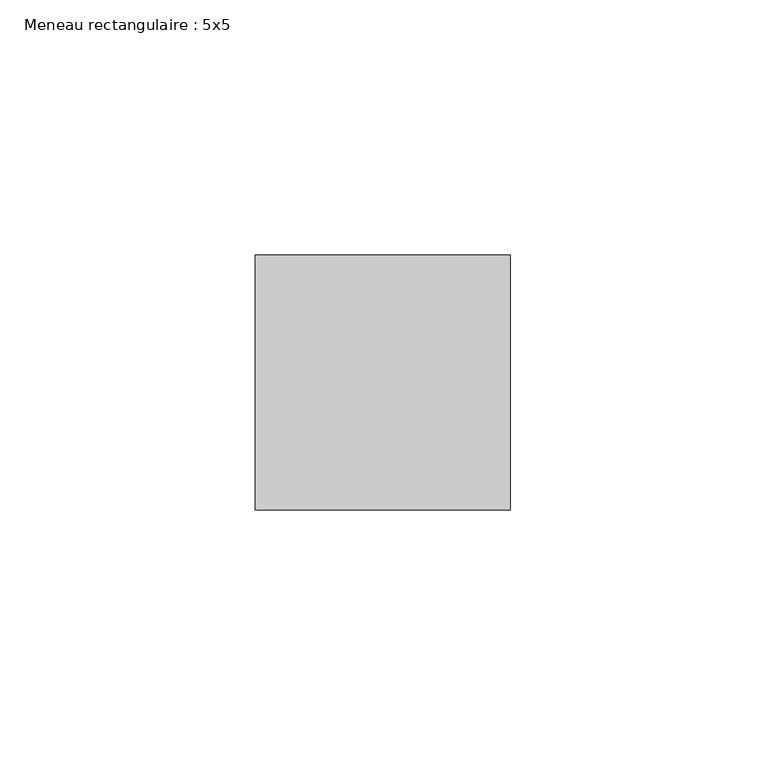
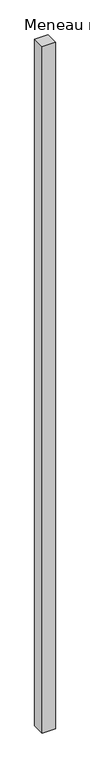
"""IFC4 building model written with IfcOpenShell, lengths in millimetres: member geometry, Meneau rectangulaire : 5x5."""

import ifcopenshell
import ifcopenshell.guid

model = None  # the IFC model being written
_history = None  # IfcOwnerHistory: only IFC2X3 demands one
_inside = {}  # id of a spatial element -> (the spatial element, [elements in it])
_under = {}  # id of a project, library or spatial element -> (it, [spatial elements below it])
_declared = {}  # id of a project -> (the project, [libraries it declares])
_typed = {}  # id of a type object -> (the type object, [elements of that type])
_made_of = {}  # id of a material, layer set ... -> (it, [elements and type objects made of it])


def new_model(schema):
    """Start an empty IFC model of exactly this schema.

    Asked for "IFC4X3", IfcOpenShell would pick the latest addendum, in which some entities
    have other attributes; the version numbers below select the first issue.
    IFC2X3 requires an IfcOwnerHistory on every rooted entity: one is made here for all.
    """
    global model, _history
    if schema == "IFC4X3":
        model = ifcopenshell.file(schema_version=(4, 3, 0, 0))
    else:
        model = ifcopenshell.file(schema=schema)
    _inside.clear()
    _under.clear()
    _declared.clear()
    _typed.clear()
    _made_of.clear()
    _history = None
    if model.schema == "IFC2X3":
        org = make("IfcOrganization", Name="unknown")
        user = make(
            "IfcPersonAndOrganization",
            ThePerson=make("IfcPerson", FamilyName="unknown"),
            TheOrganization=org,
        )
        app = make(
            "IfcApplication",
            ApplicationDeveloper=org,
            Version="unknown",
            ApplicationFullName="unknown",
            ApplicationIdentifier="unknown",
        )
        _history = make(
            "IfcOwnerHistory",
            OwningUser=user,
            OwningApplication=app,
            ChangeAction="ADDED",
            CreationDate=0,
        )
    return model


def make(cls, **values):
    """One entity of the class cls with the attributes given. An attribute that is None is left unset."""
    return model.create_entity(
        cls, **{name: value for name, value in values.items() if value is not None}
    )


def rooted(cls, **values):
    """An entity with a GlobalId (a new one), such as an element, a storey or a relation."""
    return make(cls, GlobalId=ifcopenshell.guid.new(), OwnerHistory=_history, **values)


def si_unit(unit_type, name, prefix=None):
    """IfcSIUnit, for example si_unit("LENGTHUNIT", "METRE", prefix="MILLI")."""
    return make("IfcSIUnit", UnitType=unit_type, Prefix=prefix, Name=name)


def assignment(units):
    """IfcUnitAssignment: the units of a project."""
    return None if units is None else make("IfcUnitAssignment", Units=units)


def point(xyz):
    """IfcCartesianPoint."""
    return None if xyz is None else make("IfcCartesianPoint", Coordinates=xyz)


def direction(xyz):
    """IfcDirection."""
    return None if xyz is None else make("IfcDirection", DirectionRatios=xyz)


def frame(location, z_axis=None, x_axis=None):
    """IfcAxis2Placement3D, a coordinate frame: its origin and axes. An axis left out is left unset."""
    return make(
        "IfcAxis2Placement3D",
        Location=point(location),
        Axis=direction(z_axis),
        RefDirection=direction(x_axis),
    )


def origin():
    """The frame at (0, 0, 0) with its axes left unset."""
    return frame((0.0, 0.0, 0.0))


def place(relative_to, where):
    """IfcLocalPlacement: puts the frame where relative to a parent placement (None: the world)."""
    return make(
        "IfcLocalPlacement", PlacementRelTo=relative_to, RelativePlacement=where
    )


def context(
    kind, dimensions, precision=None, world=None, true_north=None, identifier=None
):
    """IfcGeometricRepresentationContext, for example the 3D "Model" context."""
    return make(
        "IfcGeometricRepresentationContext",
        ContextIdentifier=identifier,
        ContextType=kind,
        CoordinateSpaceDimension=dimensions,
        Precision=precision,
        WorldCoordinateSystem=world,
        TrueNorth=true_north,
    )


def project(units=None, contexts=None):
    """IfcProject with its units and contexts."""
    return rooted(
        "IfcProject",
        Name="project",
        RepresentationContexts=contexts,
        UnitsInContext=assignment(units),
    )


def spatial(cls, under=None, at=None, **own):
    """A site, building, storey or space (cls), placed at a placement, below another one or the project."""
    s = rooted(cls, ObjectPlacement=at, **own)
    if under is not None:
        _under.setdefault(under.id(), (under, []))[1].append(s)
    return s


def polyline(points):
    """IfcPolyline through the points."""
    return make("IfcPolyline", Points=[point(p) for p in points])


def outline(outer, holes=None, kind="AREA"):
    """IfcArbitraryClosedProfileDef: a profile drawn as a closed curve; with holes, ...WithVoids."""
    if holes is None:
        return make("IfcArbitraryClosedProfileDef", ProfileType=kind, OuterCurve=outer)
    return make(
        "IfcArbitraryProfileDefWithVoids",
        ProfileType=kind,
        OuterCurve=outer,
        InnerCurves=holes,
    )


def extrude(swept, where, along, depth):
    """IfcExtrudedAreaSolid: the profile swept, set in the frame where, extruded along a direction by depth."""
    return make(
        "IfcExtrudedAreaSolid",
        SweptArea=swept,
        Position=where,
        ExtrudedDirection=direction(along),
        Depth=depth,
    )


def shape(context_of_items, identifier, shape_type, items):
    """IfcShapeRepresentation: the items that make up one representation, for example the "Body"."""
    return make(
        "IfcShapeRepresentation",
        ContextOfItems=context_of_items,
        RepresentationIdentifier=identifier,
        RepresentationType=shape_type,
        Items=items,
    )


def source(mapping_origin, context_of_items, identifier, shape_type, items):
    """IfcRepresentationMap: a shape defined once, which mapped items show again and again."""
    return make(
        "IfcRepresentationMap",
        MappingOrigin=mapping_origin,
        MappedRepresentation=shape(context_of_items, identifier, shape_type, items),
    )


def transform(
    local_origin,
    x_axis=None,
    y_axis=None,
    z_axis=None,
    scale=None,
    scale2=None,
    scale3=None,
    uniform=True,
):
    """IfcCartesianTransformationOperator3D, or its non-uniform kind. x_axis, y_axis, z_axis: its Axis1, 2, 3."""
    if uniform:
        return make(
            "IfcCartesianTransformationOperator3D",
            Axis1=direction(x_axis),
            Axis2=direction(y_axis),
            LocalOrigin=point(local_origin),
            Scale=scale,
            Axis3=direction(z_axis),
        )
    return make(
        "IfcCartesianTransformationOperator3DnonUniform",
        Axis1=direction(x_axis),
        Axis2=direction(y_axis),
        LocalOrigin=point(local_origin),
        Scale=scale,
        Axis3=direction(z_axis),
        Scale2=scale2,
        Scale3=scale3,
    )


def mapped(mapping_source, mapping_target):
    """IfcMappedItem: shows the shape of a source again, moved by a transform."""
    return make(
        "IfcMappedItem", MappingSource=mapping_source, MappingTarget=mapping_target
    )


def made_of(thing, what):
    """Note that an element or type object is made of a material, layer set ...; save() writes the relation."""
    if what is not None:
        _made_of.setdefault(what.id(), (what, []))[1].append(thing)
    return thing


def element(
    cls,
    number,
    at=None,
    inside=None,
    cuts=None,
    type_object=None,
    material=None,
    context=None,
    identifier="Body",
    shape_type=None,
    held_by="IfcProductDefinitionShape",
    body=None,
    shapes=None,
    **own,
):
    """One element of the class cls, such as IfcWall. Its Tag is "e" and its number.

    at: its placement. inside: the storey or other place that contains it. cuts: it is an
    opening in that element (IfcRelVoidsElement). A single representation is given by context,
    identifier, shape_type and body (its items); several are given by shapes. held_by: the class
    of the entity that holds the representations. save() writes the other relations.
    """
    e = rooted(cls, Tag="e%d" % number, ObjectPlacement=at, **own)
    if body is not None:
        shapes = [shape(context, identifier, shape_type, body)]
    if shapes is not None:
        e.Representation = make(held_by, Representations=shapes)
    if inside is not None:
        _inside.setdefault(inside.id(), (inside, []))[1].append(e)
    if cuts is not None:
        rooted(
            "IfcRelVoidsElement", RelatingBuildingElement=cuts, RelatedOpeningElement=e
        )
    if type_object is not None:
        _typed.setdefault(type_object.id(), (type_object, []))[1].append(e)
    return made_of(e, material)


def aggregate(whole, parts):
    """IfcRelAggregates: a whole, such as a stair, and the parts it consists of."""
    return rooted("IfcRelAggregates", RelatingObject=whole, RelatedObjects=parts)


def save(model, path):
    """Write the relations noted so far, then the file.

    IfcRelAggregates (storeys below a building ...), IfcRelContainedInSpatialStructure (elements
    in a storey), IfcRelDefinesByType, IfcRelAssociatesMaterial and IfcRelDeclares: one each for
    every whole, place, type object, material and project.
    """
    for whole, parts in _under.values():
        aggregate(whole, parts)
    for where, things in _inside.values():
        rooted(
            "IfcRelContainedInSpatialStructure",
            RelatedElements=things,
            RelatingStructure=where,
        )
    for kind, things in _typed.values():
        rooted("IfcRelDefinesByType", RelatedObjects=things, RelatingType=kind)
    for what, things in _made_of.values():
        rooted("IfcRelAssociatesMaterial", RelatedObjects=things, RelatingMaterial=what)
    for by, libraries in _declared.values():
        rooted("IfcRelDeclares", RelatingContext=by, RelatedDefinitions=libraries)
    model.write(path)


def meneau_rectangulaire_5x5_49ad1a7b(model_context):
    return source(origin(), model_context, "Body", "SweptSolid", [
        extrude(outline(polyline([(0.0, 25.0), (0.0, -25.0), (-50.0, -25.0), (-50.0, 25.0), (0.0, 25.0)])), frame((0.0, 0.0, -2770.0), z_axis=(0.0, 0.0, 1.0), x_axis=(1.0, 0.0, 0.0)), (0.0, 0.0, 1.0), 2770.0),
    ])


if __name__ == "__main__":
    model = new_model("IFC4")
    model_context = context("Model", 3, world=origin())
    ifc_project = project(units=[si_unit("LENGTHUNIT", "METRE", prefix="MILLI")], contexts=[model_context])
    site = spatial("IfcSite", under=ifc_project)
    building = spatial("IfcBuilding", under=site)
    placement = place(None, origin())
    meneau_rectangulaire_5x5_shape = meneau_rectangulaire_5x5_49ad1a7b(model_context)
    element("IfcMember", 1, ObjectType="Meneau rectangulaire : 5x5", at=placement, inside=building, context=model_context, shape_type="MappedRepresentation", body=[
        mapped(meneau_rectangulaire_5x5_shape, transform((0.0, 0.0, 0.0), x_axis=(1.0, 0.0, 0.0), y_axis=(0.0, 1.0, 0.0), z_axis=(0.0, 0.0, 1.0))),
    ])
    save(model, "model.ifc")
